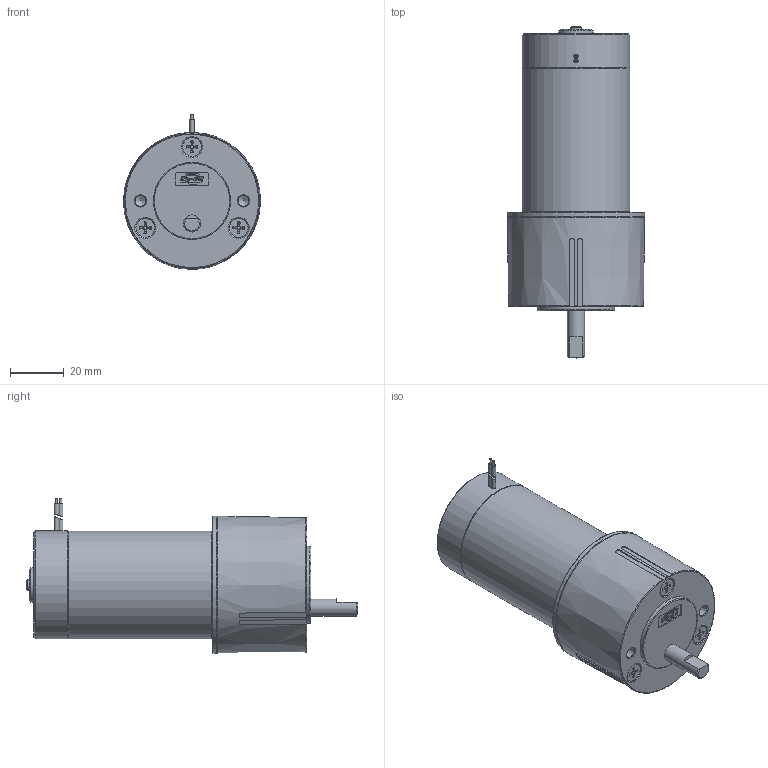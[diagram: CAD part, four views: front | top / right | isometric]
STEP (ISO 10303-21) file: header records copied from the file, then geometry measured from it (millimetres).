
FILE_DESCRIPTION((''),'2;1');
FILE_NAME('Z:\4_DC\새 폴더\RS4 SERIES\RS45ㅁㅁLㅁ.stp','2015-03-25T17:15:50',('kdhkdh'),(''),'Autodesk Inventor 2013','Autodesk Inventor 2013','');
FILE_SCHEMA(('AUTOMOTIVE_DESIGN { 1 0 10303 214 1 1 1 1 }'));
Length unit declared in the file: millimetre
Products named in the file (1): 부품2
Bounding box: 50.8 x 122.99 x 57.4 mm (x, y, z)
Volume: 154109.6 mm3; surface area: 19394 mm2
Topology: 2 solids, 4 shells, 365 faces, 946 edges, 615 vertices
Faces by surface type: plane 193, cylinder 105, cone 45, torus 22
Full cylindrical faces by diameter (mm): 0.76 x2, 1.56 x4, 2.8 x4, 3.5 x2, 3.7 x2, 3.962 x2, 4 x1, 6.34 x1, 6.9 x5, 7.8 x3, 12.7 x1, 28.575 x1, 40 x2, 50.8 x1
Entity records: 11520 total; most frequent: CARTESIAN_POINT 2953, ORIENTED_EDGE 1746, DIRECTION 1696, EDGE_CURVE 873, AXIS2_PLACEMENT_3D 633, VERTEX_POINT 596, EDGE_LOOP 453, VECTOR 430
